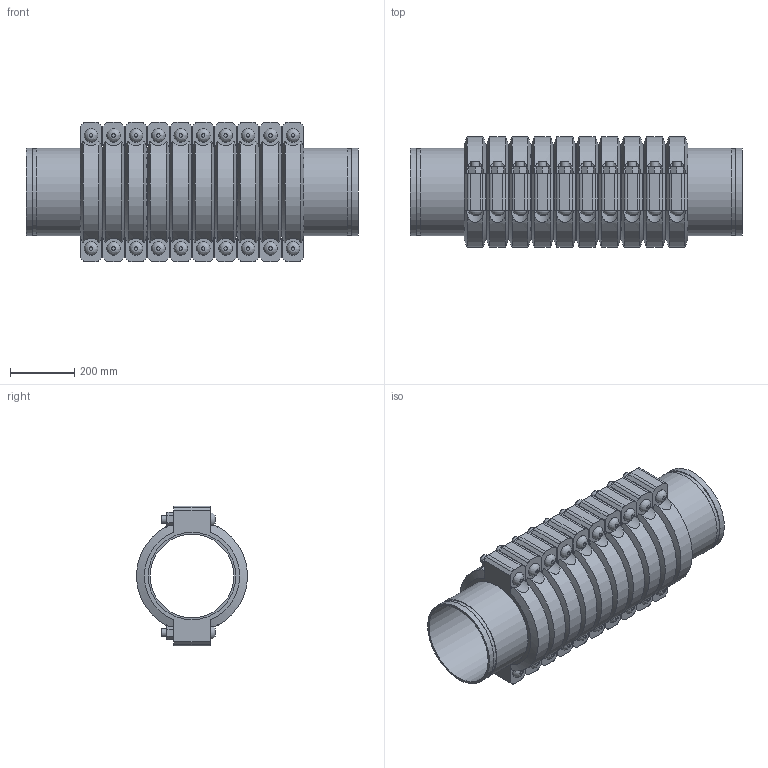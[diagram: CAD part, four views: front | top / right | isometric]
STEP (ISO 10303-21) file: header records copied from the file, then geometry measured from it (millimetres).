
FILE_DESCRIPTION(/* description */ ('VIC EXPANSION JOINT 10 COUPLINGS COMPRESSED STYLE 155 (OGS)','CAx-IF Rec.Pracs.---Representation and Presentation of Product Manufacturing Information (PMI)---4.0---2014-10-13'),/* implementation_level */ '2;1');
FILE_NAME(/* name */ 'C:\Users\kkamble\AppData\Roaming\Autodesk\ApplicationPlugins\Victaulic.Temp\A539\Victaulic_IPS_Expansion Joint_Compressed_10 Couplings_Style 155 (OGS)_10 (250).stp',/* time_stamp */ '2021-06-27T00:17:16+02:00',/* author */ ('kkamble'),/* organization */ ('Victaulic'),/* preprocessor_version */ 'ST-DEVELOPER v17.2',/* originating_system */ 'Autodesk Inventor 2019',/* authorisation */ '');
FILE_SCHEMA (('AP242_MANAGED_MODEL_BASED_3D_ENGINEERING_MIM_LF { 1 0 10303 442 1 1 4 }'));
Length unit declared in the file: inch
Products named in the file (4): 155-10.0; Nipple-10.0; Nipple-10.0_1; 077-10 Coup-10.0
Assembly tree (21 placements, depth 2):
  155-10.0
    Nipple-10.0  x2
    Nipple-10.0_1  x9
    077-10 Coup-10.0  x10
Bounding box: 1035.05 x 344.9 x 435.1 mm (x, y, z)
Volume: 34144502 mm3; surface area: 4724945.1 mm2
Topology: 21 solids, 41 shells, 742 faces, 1780 edges, 1244 vertices
Faces by surface type: plane 426, cylinder 256, cone 40, bspline 20
Full cylindrical faces by diameter (mm): 25.4 x40, 27.432 x20, 260.35 x11, 264.16 x10, 268.275 x22, 273.05 x53
Entity records: 3162 total; most frequent: CARTESIAN_POINT 685, DIRECTION 497, ORIENTED_EDGE 410, EDGE_CURVE 205, AXIS2_PLACEMENT_3D 204, VERTEX_POINT 146, EDGE_LOOP 111, CIRCLE 96
